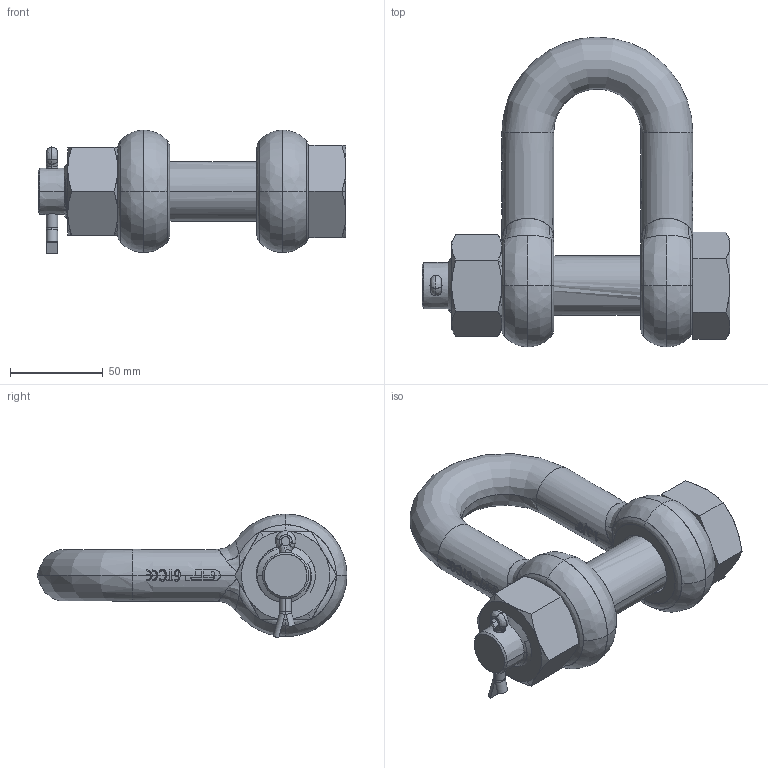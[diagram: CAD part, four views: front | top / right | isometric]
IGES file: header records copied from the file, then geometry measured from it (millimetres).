
Start section: START RECORD GO HERE.
Global section: file name: 9,5.igs; native system: Solidworks 2009      A Version 5 Release 17 ; preprocessor: Solidworks                 ; author: v.b.; organization: P4; date: 20090807.084136; units: millimetre
Bounding box: 166 x 167 x 66.69 mm (x, y, z)
Surface area: 79026.6 mm2 (no closed solid volume)
Topology: 0 solids, 0 shells, 752 faces, 4972 edges, 4964 vertices
Faces by surface type: bspline 337, plane 251, revolution 164
